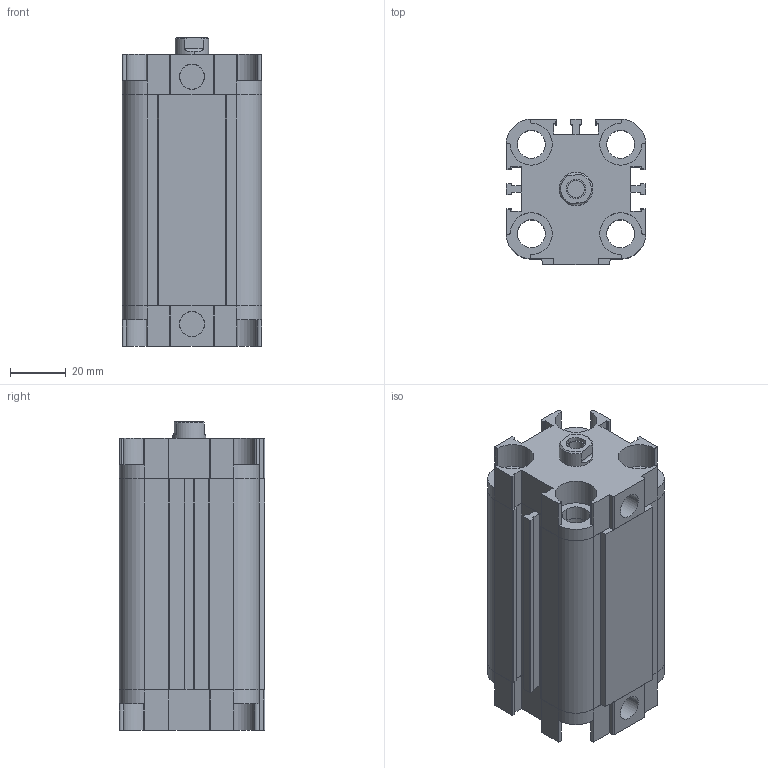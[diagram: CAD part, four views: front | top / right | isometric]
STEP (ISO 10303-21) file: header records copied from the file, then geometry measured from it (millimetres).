
FILE_DESCRIPTION (( 'STEP AP203' ), '1' );
FILE_NAME ('ADVU32X60-SCYLINDER.STEP', '2015-05-22T09:13:21', ( 'user' ), ( '' ), 'SwSTEP 2.0', 'SolidWorks 2013', '' );
FILE_SCHEMA (( 'CONFIG_CONTROL_DESIGN' ));
Length unit declared in the file: millimetre
Products named in the file (6): ADVU 32-S ARKA KAPAK; ADVU 32-S ORTA PÝSTON; ADVU 32X60-S BORU; ADVU 32-S 烰 KAPAK; ADVU 32X60-S M尳; ADVU32X60-SCYLINDER
Assembly tree (5 placements, depth 2):
  ADVU32X60-SCYLINDER
    ADVU 32-S ARKA KAPAK
    ADVU 32-S ORTA PÝSTON
    ADVU 32X60-S BORU
    ADVU 32-S 烰 KAPAK
    ADVU 32X60-S M尳
Bounding box: 50 x 52 x 110.5 mm (x, y, z)
Volume: 144370.8 mm3; surface area: 69041.6 mm2
Topology: 6 solids, 6 shells, 390 faces, 1027 edges, 678 vertices
Faces by surface type: cylinder 199, plane 179, cone 12
Entity records: 12975 total; most frequent: CARTESIAN_POINT 2242, DIRECTION 2223, ORIENTED_EDGE 2054, EDGE_CURVE 1027, AXIS2_PLACEMENT_3D 811, VERTEX_POINT 678, VECTOR 601, LINE 601
